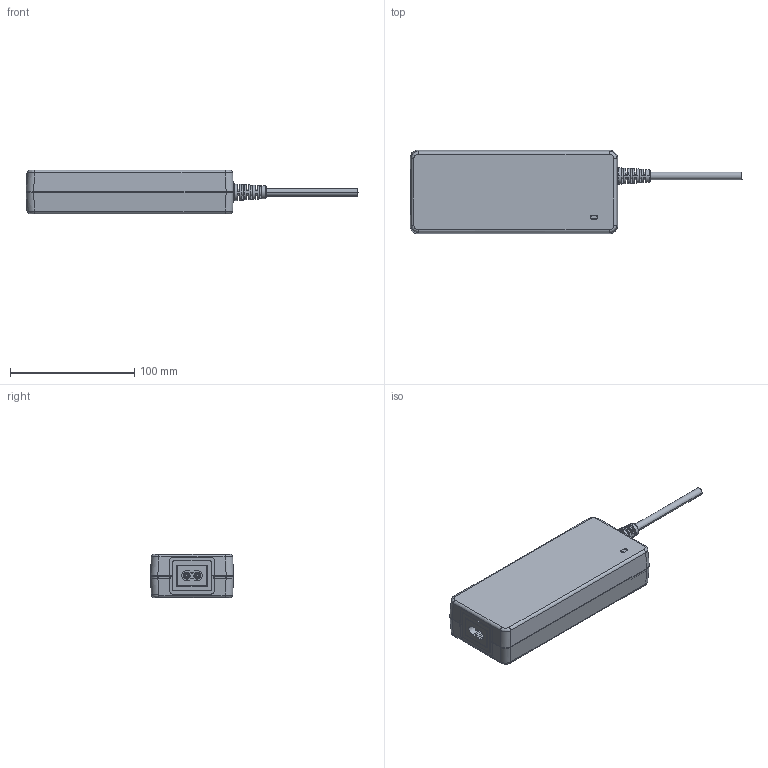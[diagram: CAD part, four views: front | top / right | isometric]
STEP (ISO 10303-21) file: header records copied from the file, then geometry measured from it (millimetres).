
FILE_DESCRIPTION(('Creo Elements/Direct Modeling STEP Export'),'2;1');
FILE_NAME('GSM-120B-STEP.stp','2020-08-06T19:03:22',(''),(''),'PTC Creo Elements/Direct Modeling STEP processor for AP214 (Solid Model)','PTC Creo Elements/Direct Modeling 19.0E 27-Jun-2016 (C) Parametric Technology GmbH','');
FILE_SCHEMA(('AUTOMOTIVE_DESIGN { 1 0 10303 214 1 1 1 1 }'));
Length unit declared in the file: millimetre
Products named in the file (31): GS120A-D; CASE; Admi8A90habe; GS120A-T; SHS-007; pin.1.2.2; ssss; HS-399; p1; HS-398; 400A; HS-120B; p1.1.1.1.1.1.1; SHS-010; 1HH2GSM120B11; 1HH2GSM120B; GSM120BHS; DC_CABLE.1.1; GSM120A-PCB; SO-222-TC-020-BODY_5_PRT.PRT; PCB; 装配1; TF; MOS15.5x10.1.1.1.1.1.1.1.1.1.1.1.1.1; uu.3.2; MOS; o; 零件; GSM120B
Assembly tree (37 placements, depth 4):
  GSM120B
    零件
      o
      MOS
        MOS15.5x10.1.1.1.1.1.1.1.1.1.1.1.1.1  x5
        uu.3.2
      TF
    装配1
      PCB
      SO-222-TC-020-BODY_5_PRT.PRT
      GSM120A-PCB
      DC_CABLE.1.1
    GSM120BHS
      1HH2GSM120B
      1HH2GSM120B11
      SHS-010
        p1
        p1.1.1.1.1.1.1  x2
      HS-120B
        pin.1.2.2
        400A
      HS-398
        pin.1.2.2
        p1
      HS-399
        ssss
        pin.1.2.2
      SHS-007
    CASE
      GS120A-T
        Admi8A90habe
        CASE
      GS120A-D
Bounding box: 267.28 x 67 x 35.01 mm (x, y, z)
Volume: 187615.7 mm3; surface area: 240127.4 mm2
Topology: 26 solids, 26 shells, 1344 faces, 3609 edges, 2403 vertices
Faces by surface type: plane 821, cylinder 354, cone 92, torus 70, bspline 7
Entity records: 39911 total; most frequent: CARTESIAN_POINT 9581, ORIENTED_EDGE 6362, DIRECTION 5596, EDGE_CURVE 3181, VERTEX_POINT 2111, VECTOR 2002, LINE 2002, AXIS2_PLACEMENT_3D 1797
